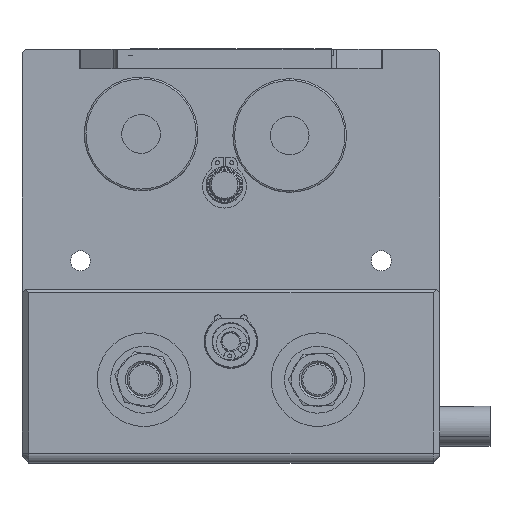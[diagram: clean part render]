
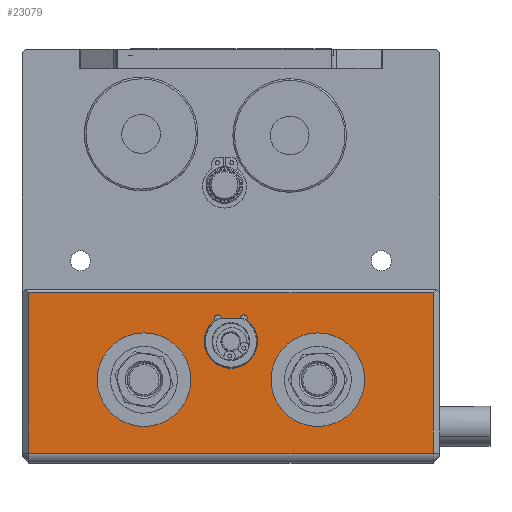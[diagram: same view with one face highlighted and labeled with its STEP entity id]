
A CAD part, front view. The second image highlights one B-rep face of the part: STEP entity #23079.
In plain terms, the highlighted planar face has unit normal (0, -1, 0).
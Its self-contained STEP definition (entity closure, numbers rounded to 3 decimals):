
#136 = EDGE_LOOP ( 'NONE', ( #321, #40455 ) ) ;
#160 = VERTEX_POINT ( 'NONE', #31261 ) ;
#321 = ORIENTED_EDGE ( 'NONE', *, *, #9103, .F. ) ;
#589 = CIRCLE ( 'NONE', #21541, 8. ) ;
#1161 = CARTESIAN_POINT ( 'NONE',  ( -60.5, -118.75, 3. ) ) ;
#1738 = CARTESIAN_POINT ( 'NONE',  ( -60.5, -118.75, 51. ) ) ;
#2551 = FACE_BOUND ( 'NONE', #38526, .T. ) ;
#2568 = DIRECTION ( 'NONE',  ( 0., 0., -1. ) ) ;
#2910 = DIRECTION ( 'NONE',  ( -1., 0., 0. ) ) ;
#2982 = EDGE_LOOP ( 'NONE', ( #20878, #22995 ) ) ;
#3352 = ORIENTED_EDGE ( 'NONE', *, *, #3443, .F. ) ;
#3443 = EDGE_CURVE ( 'NONE', #160, #37118, #589, .T. ) ;
#3453 = DIRECTION ( 'NONE',  ( 0., -1., 0. ) ) ;
#3517 = VECTOR ( 'NONE', #5930, 1000. ) ;
#3592 = AXIS2_PLACEMENT_3D ( 'NONE', #25542, #34284, #34491 ) ;
#4028 = CARTESIAN_POINT ( 'NONE',  ( 60.5, -118.75, 51. ) ) ;
#4363 = CARTESIAN_POINT ( 'NONE',  ( 60.5, -118.75, 51. ) ) ;
#4899 = EDGE_LOOP ( 'NONE', ( #26667, #37321, #25007, #28687 ) ) ;
#5930 = DIRECTION ( 'NONE',  ( 0., 0., -1. ) ) ;
#5957 = FACE_OUTER_BOUND ( 'NONE', #4899, .T. ) ;
#6964 = AXIS2_PLACEMENT_3D ( 'NONE', #41659, #3453, #12372 ) ;
#6972 = ORIENTED_EDGE ( 'NONE', *, *, #17745, .F. ) ;
#7103 = CARTESIAN_POINT ( 'NONE',  ( -26., -118.75, 24.943 ) ) ;
#7774 = CARTESIAN_POINT ( 'NONE',  ( 0., -118.75, 28.34 ) ) ;
#7959 = CARTESIAN_POINT ( 'NONE',  ( 26., -118.75, 38.943 ) ) ;
#8555 = CARTESIAN_POINT ( 'NONE',  ( -2.873, -118.75, 43.34 ) ) ;
#9103 = EDGE_CURVE ( 'NONE', #40494, #35369, #28253, .T. ) ;
#9134 = LINE ( 'NONE', #25720, #39861 ) ;
#9603 = CIRCLE ( 'NONE', #14363, 14. ) ;
#9673 = EDGE_CURVE ( 'NONE', #12922, #24477, #9603, .T. ) ;
#10464 = VERTEX_POINT ( 'NONE', #28539 ) ;
#11856 = EDGE_CURVE ( 'NONE', #35369, #40494, #27145, .T. ) ;
#12041 = CARTESIAN_POINT ( 'NONE',  ( -2.873, -118.75, 43.34 ) ) ;
#12069 = LINE ( 'NONE', #21425, #3517 ) ;
#12315 = DIRECTION ( 'NONE',  ( 0., 1., 0. ) ) ;
#12372 = DIRECTION ( 'NONE',  ( 0., 0., -1. ) ) ;
#12922 = VERTEX_POINT ( 'NONE', #14807 ) ;
#13008 = DIRECTION ( 'NONE',  ( 0., -1., 0. ) ) ;
#13378 = DIRECTION ( 'NONE',  ( 0., -1., 0. ) ) ;
#13547 = CARTESIAN_POINT ( 'NONE',  ( 26., -118.75, 24.943 ) ) ;
#13738 = LINE ( 'NONE', #26706, #41285 ) ;
#13884 = EDGE_CURVE ( 'NONE', #14361, #160, #40176, .T. ) ;
#14361 = VERTEX_POINT ( 'NONE', #8555 ) ;
#14363 = AXIS2_PLACEMENT_3D ( 'NONE', #7103, #39555, #30431 ) ;
#14478 = EDGE_CURVE ( 'NONE', #37118, #26323, #17785, .T. ) ;
#14807 = CARTESIAN_POINT ( 'NONE',  ( -26., -118.75, 10.943 ) ) ;
#15211 = LINE ( 'NONE', #12041, #16045 ) ;
#15994 = ORIENTED_EDGE ( 'NONE', *, *, #19816, .F. ) ;
#16045 = VECTOR ( 'NONE', #2910, 1000. ) ;
#16193 = CARTESIAN_POINT ( 'NONE',  ( 26., -118.75, 24.943 ) ) ;
#16683 = ORIENTED_EDGE ( 'NONE', *, *, #14478, .F. ) ;
#16699 = DIRECTION ( 'NONE',  ( -1., 0., 0. ) ) ;
#17745 = EDGE_CURVE ( 'NONE', #25946, #14361, #15211, .T. ) ;
#17785 = CIRCLE ( 'NONE', #6964, 8. ) ;
#17848 = DIRECTION ( 'NONE',  ( 0., -1., 0. ) ) ;
#18292 = AXIS2_PLACEMENT_3D ( 'NONE', #34652, #17848, #2568 ) ;
#18299 = CARTESIAN_POINT ( 'NONE',  ( 26., -118.75, 10.943 ) ) ;
#18778 = CARTESIAN_POINT ( 'NONE',  ( 4.716, -118.75, 42.802 ) ) ;
#18893 = PLANE ( 'NONE',  #24603 ) ;
#19778 = CARTESIAN_POINT ( 'NONE',  ( -26., -118.75, 24.943 ) ) ;
#19816 = EDGE_CURVE ( 'NONE', #26323, #25946, #37939, .T. ) ;
#19982 = DIRECTION ( 'NONE',  ( 0., 0., -1. ) ) ;
#20435 = CIRCLE ( 'NONE', #38056, 14. ) ;
#20878 = ORIENTED_EDGE ( 'NONE', *, *, #9673, .F. ) ;
#21425 = CARTESIAN_POINT ( 'NONE',  ( -60.5, -118.75, 3. ) ) ;
#21541 = AXIS2_PLACEMENT_3D ( 'NONE', #36102, #23379, #32738 ) ;
#21802 = ORIENTED_EDGE ( 'NONE', *, *, #13884, .F. ) ;
#21875 = EDGE_CURVE ( 'NONE', #24477, #12922, #20435, .T. ) ;
#22995 = ORIENTED_EDGE ( 'NONE', *, *, #21875, .F. ) ;
#23079 = ADVANCED_FACE ( 'NONE', ( #2551, #31226, #28417, #5957 ), #18893, .F. ) ;
#23379 = DIRECTION ( 'NONE',  ( 0., -1., 0. ) ) ;
#24477 = VERTEX_POINT ( 'NONE', #31116 ) ;
#24603 = AXIS2_PLACEMENT_3D ( 'NONE', #28190, #12315, #32073 ) ;
#25007 = ORIENTED_EDGE ( 'NONE', *, *, #34034, .T. ) ;
#25542 = CARTESIAN_POINT ( 'NONE',  ( -3.873, -118.75, 43.34 ) ) ;
#25720 = CARTESIAN_POINT ( 'NONE',  ( 62.5, -118.75, 3. ) ) ;
#25792 = AXIS2_PLACEMENT_3D ( 'NONE', #13547, #26527, #39456 ) ;
#25946 = VERTEX_POINT ( 'NONE', #31852 ) ;
#26323 = VERTEX_POINT ( 'NONE', #18778 ) ;
#26527 = DIRECTION ( 'NONE',  ( 0., -1., 0. ) ) ;
#26667 = ORIENTED_EDGE ( 'NONE', *, *, #28720, .T. ) ;
#26706 = CARTESIAN_POINT ( 'NONE',  ( 62.5, -118.75, 51. ) ) ;
#27145 = CIRCLE ( 'NONE', #25792, 14. ) ;
#28190 = CARTESIAN_POINT ( 'NONE',  ( 62.5, -118.75, 3. ) ) ;
#28253 = CIRCLE ( 'NONE', #37112, 14. ) ;
#28417 = FACE_BOUND ( 'NONE', #136, .T. ) ;
#28439 = DIRECTION ( 'NONE',  ( -1., 0., 0. ) ) ;
#28539 = CARTESIAN_POINT ( 'NONE',  ( 60.5, -118.75, 3. ) ) ;
#28687 = ORIENTED_EDGE ( 'NONE', *, *, #29363, .F. ) ;
#28720 = EDGE_CURVE ( 'NONE', #10464, #39977, #35862, .T. ) ;
#29227 = VERTEX_POINT ( 'NONE', #1161 ) ;
#29363 = EDGE_CURVE ( 'NONE', #10464, #29227, #9134, .T. ) ;
#30431 = DIRECTION ( 'NONE',  ( 0., 0., -1. ) ) ;
#30537 = EDGE_CURVE ( 'NONE', #39977, #38309, #13738, .T. ) ;
#31116 = CARTESIAN_POINT ( 'NONE',  ( -26., -118.75, 38.943 ) ) ;
#31226 = FACE_BOUND ( 'NONE', #2982, .T. ) ;
#31261 = CARTESIAN_POINT ( 'NONE',  ( -4.716, -118.75, 42.802 ) ) ;
#31852 = CARTESIAN_POINT ( 'NONE',  ( 2.873, -118.75, 43.34 ) ) ;
#32073 = DIRECTION ( 'NONE',  ( 0., 0., 1. ) ) ;
#32738 = DIRECTION ( 'NONE',  ( 0., 0., -1. ) ) ;
#33059 = VECTOR ( 'NONE', #36060, 1000. ) ;
#34034 = EDGE_CURVE ( 'NONE', #38309, #29227, #12069, .T. ) ;
#34284 = DIRECTION ( 'NONE',  ( 0., -1., 0. ) ) ;
#34491 = DIRECTION ( 'NONE',  ( 0., 0., -1. ) ) ;
#34652 = CARTESIAN_POINT ( 'NONE',  ( 3.873, -118.75, 43.34 ) ) ;
#35369 = VERTEX_POINT ( 'NONE', #7959 ) ;
#35742 = DIRECTION ( 'NONE',  ( 0., 0., -1. ) ) ;
#35862 = LINE ( 'NONE', #4028, #33059 ) ;
#36060 = DIRECTION ( 'NONE',  ( 0., 0., 1. ) ) ;
#36102 = CARTESIAN_POINT ( 'NONE',  ( 0., -118.75, 36.34 ) ) ;
#37112 = AXIS2_PLACEMENT_3D ( 'NONE', #16193, #13008, #35742 ) ;
#37118 = VERTEX_POINT ( 'NONE', #7774 ) ;
#37321 = ORIENTED_EDGE ( 'NONE', *, *, #30537, .T. ) ;
#37939 = CIRCLE ( 'NONE', #18292, 1. ) ;
#38056 = AXIS2_PLACEMENT_3D ( 'NONE', #19778, #13378, #19982 ) ;
#38309 = VERTEX_POINT ( 'NONE', #1738 ) ;
#38526 = EDGE_LOOP ( 'NONE', ( #3352, #21802, #6972, #15994, #16683 ) ) ;
#39456 = DIRECTION ( 'NONE',  ( 0., 0., -1. ) ) ;
#39555 = DIRECTION ( 'NONE',  ( 0., -1., 0. ) ) ;
#39861 = VECTOR ( 'NONE', #28439, 1000. ) ;
#39977 = VERTEX_POINT ( 'NONE', #4363 ) ;
#40176 = CIRCLE ( 'NONE', #3592, 1. ) ;
#40455 = ORIENTED_EDGE ( 'NONE', *, *, #11856, .F. ) ;
#40494 = VERTEX_POINT ( 'NONE', #18299 ) ;
#41285 = VECTOR ( 'NONE', #16699, 1000. ) ;
#41659 = CARTESIAN_POINT ( 'NONE',  ( 0., -118.75, 36.34 ) ) ;
